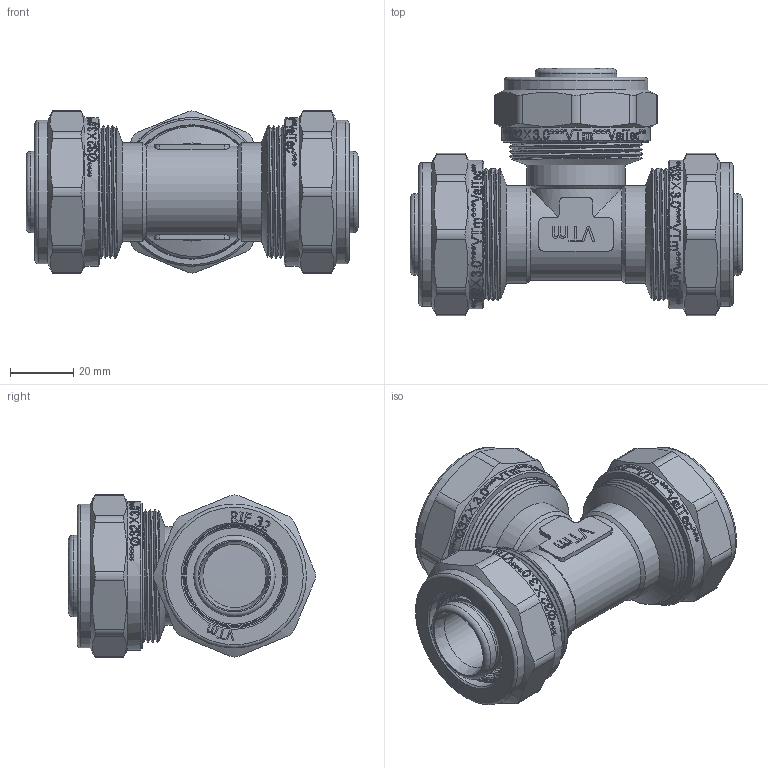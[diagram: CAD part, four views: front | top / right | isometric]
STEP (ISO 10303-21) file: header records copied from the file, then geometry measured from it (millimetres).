
FILE_DESCRIPTION(/* description */ (''),/* implementation_level */ '2;1');
FILE_NAME(/* name */ 'E:\Артём\00000\Работа удаленка\Обжимные фитинги\VTm.331.N.323232.stp',/* time_stamp */ '2020-06-30T12:46:16+03:00',/* author */ ('BeN_GaN'),/* organization */ (''),/* preprocessor_version */ 'ST-DEVELOPER v18',/* originating_system */ 'Autodesk Inventor 2020',/* authorisation */ '');
FILE_SCHEMA (('AUTOMOTIVE_DESIGN { 1 0 10303 214 3 1 1 }'));
Length unit declared in the file: millimetre
Products named in the file (1): VTm.331.N.323232
Bounding box: 105 x 78.15 x 51.3 mm (x, y, z)
Volume: 111479.1 mm3; surface area: 57857.6 mm2
Topology: 1 solids, 1 shells, 2079 faces, 5919 edges, 3992 vertices
Faces by surface type: bspline 1131, plane 565, cylinder 268, torus 72, cone 43
Full cylindrical faces by diameter (mm): 20 x2, 23.4 x6, 25.75 x15, 29 x1, 30.538 x12, 31 x3, 31.683 x15, 32.2 x3, 32.7 x3, 35.5 x3, 40.38 x24, 40.5 x10, 42 x9, 45.5 x3, 47 x3
Entity records: 92175 total; most frequent: CARTESIAN_POINT 45402, ORIENTED_EDGE 11846, DIRECTION 6119, EDGE_CURVE 5923, VERTEX_POINT 3996, LINE 2515, VECTOR 2515, B_SPLINE_CURVE_WITH_KNOTS 2507
